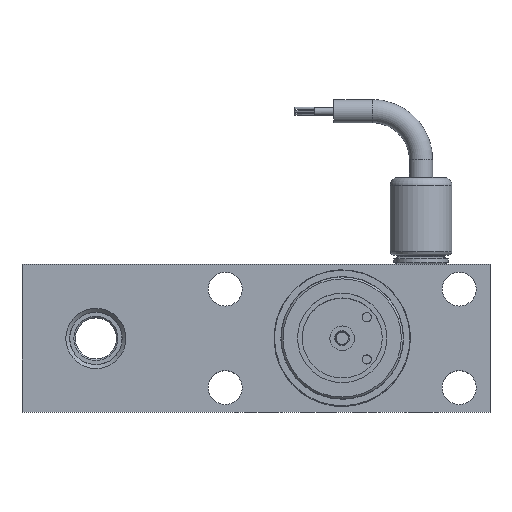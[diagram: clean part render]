
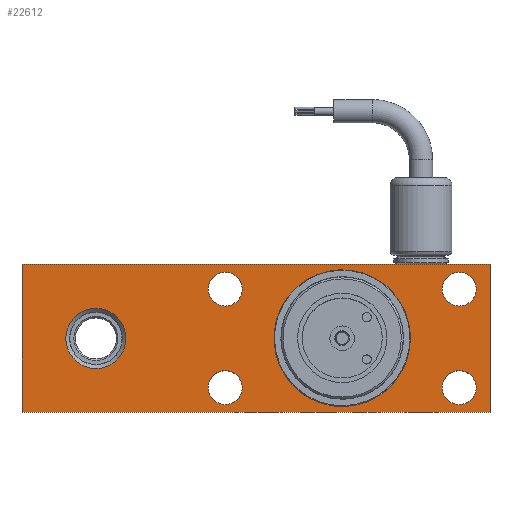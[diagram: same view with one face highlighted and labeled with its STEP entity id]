
A CAD part, top view. The second image highlights one B-rep face of the part: STEP entity #22612.
In plain terms, the highlighted planar face has unit normal (0, 0, 1).
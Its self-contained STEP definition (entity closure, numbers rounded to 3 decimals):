
#1621=FACE_BOUND('',#5839,.T.);
#1622=FACE_BOUND('',#5840,.T.);
#1623=FACE_BOUND('',#5841,.T.);
#1624=FACE_BOUND('',#5842,.T.);
#1625=FACE_BOUND('',#5843,.T.);
#1626=FACE_BOUND('',#5844,.T.);
#3156=CIRCLE('',#23402,17.463);
#3170=CIRCLE('',#23430,4.369);
#3171=CIRCLE('',#23432,4.369);
#3172=CIRCLE('',#23434,4.369);
#3173=CIRCLE('',#23436,4.369);
#3178=CIRCLE('',#23447,7.76);
#4409=FACE_OUTER_BOUND('',#5838,.T.);
#5838=EDGE_LOOP('',(#20713,#20714,#20715,#20716));
#5839=EDGE_LOOP('',(#20717));
#5840=EDGE_LOOP('',(#20718));
#5841=EDGE_LOOP('',(#20719));
#5842=EDGE_LOOP('',(#20720));
#5843=EDGE_LOOP('',(#20721));
#5844=EDGE_LOOP('',(#20722));
#6710=LINE('',#87294,#8550);
#6734=LINE('',#87492,#8574);
#6752=LINE('',#87624,#8592);
#7236=LINE('',#89884,#9076);
#8550=VECTOR('',#26185,10.);
#8574=VECTOR('',#26311,10.);
#8592=VECTOR('',#26367,10.);
#9076=VECTOR('',#27185,10.);
#10708=VERTEX_POINT('',#87262);
#10716=VERTEX_POINT('',#87292);
#10717=VERTEX_POINT('',#87293);
#10761=VERTEX_POINT('',#87414);
#10762=VERTEX_POINT('',#87417);
#10763=VERTEX_POINT('',#87420);
#10764=VERTEX_POINT('',#87423);
#10769=VERTEX_POINT('',#87476);
#10773=VERTEX_POINT('',#87490);
#10774=VERTEX_POINT('',#87491);
#13299=EDGE_CURVE('',#10708,#10708,#3156,.T.);
#13307=EDGE_CURVE('',#10716,#10717,#6710,.T.);
#13353=EDGE_CURVE('',#10761,#10761,#3170,.T.);
#13354=EDGE_CURVE('',#10762,#10762,#3171,.T.);
#13355=EDGE_CURVE('',#10763,#10763,#3172,.T.);
#13356=EDGE_CURVE('',#10764,#10764,#3173,.T.);
#13363=EDGE_CURVE('',#10769,#10769,#3178,.T.);
#13368=EDGE_CURVE('',#10773,#10774,#6734,.T.);
#13405=EDGE_CURVE('',#10774,#10716,#6752,.T.);
#14024=EDGE_CURVE('',#10717,#10773,#7236,.T.);
#20713=ORIENTED_EDGE('',*,*,#13307,.F.);
#20714=ORIENTED_EDGE('',*,*,#13405,.F.);
#20715=ORIENTED_EDGE('',*,*,#13368,.F.);
#20716=ORIENTED_EDGE('',*,*,#14024,.F.);
#20717=ORIENTED_EDGE('',*,*,#13363,.F.);
#20718=ORIENTED_EDGE('',*,*,#13356,.T.);
#20719=ORIENTED_EDGE('',*,*,#13355,.T.);
#20720=ORIENTED_EDGE('',*,*,#13354,.T.);
#20721=ORIENTED_EDGE('',*,*,#13353,.T.);
#20722=ORIENTED_EDGE('',*,*,#13299,.T.);
#21419=PLANE('',#23826);
#22612=ADVANCED_FACE('',(#4409,#1621,#1622,#1623,#1624,#1625,#1626),#21419,
 .F.);
#23402=AXIS2_PLACEMENT_3D('',#87263,#26174,#26175);
#23430=AXIS2_PLACEMENT_3D('',#87415,#26257,#26258);
#23432=AXIS2_PLACEMENT_3D('',#87418,#26261,#26262);
#23434=AXIS2_PLACEMENT_3D('',#87421,#26265,#26266);
#23436=AXIS2_PLACEMENT_3D('',#87424,#26269,#26270);
#23447=AXIS2_PLACEMENT_3D('',#87477,#26291,#26292);
#23826=AXIS2_PLACEMENT_3D('',#92227,#28064,#28065);
#26174=DIRECTION('center_axis',(0.,0.,
-1.));
#26175=DIRECTION('ref_axis',(-1.,-0.018,0.));
#26185=DIRECTION('',(0.,-1.,0.));
#26257=DIRECTION('center_axis',(0.,0.,-1.));
#26258=DIRECTION('ref_axis',(-1.,0.,0.));
#26261=DIRECTION('center_axis',(0.,0.,-1.));
#26262=DIRECTION('ref_axis',(-1.,0.,0.));
#26265=DIRECTION('center_axis',(0.,0.,-1.));
#26266=DIRECTION('ref_axis',(-1.,0.,0.));
#26269=DIRECTION('center_axis',(0.,0.,-1.));
#26270=DIRECTION('ref_axis',(-1.,0.,0.));
#26291=DIRECTION('center_axis',(0.,0.,1.));
#26292=DIRECTION('ref_axis',(-1.,0.,0.));
#26311=DIRECTION('',(0.,1.,0.));
#26367=DIRECTION('',(1.,0.,0.));
#27185=DIRECTION('',(-1.,0.,0.));
#28064=DIRECTION('center_axis',(0.,0.,-1.));
#28065=DIRECTION('ref_axis',(-1.,0.,0.));
#87262=CARTESIAN_POINT('',(17.46,0.308,19.05));
#87263=CARTESIAN_POINT('Origin',(0.,0.,19.05));
#87292=CARTESIAN_POINT('',(38.1,19.05,19.05));
#87293=CARTESIAN_POINT('',(38.1,-19.05,19.05));
#87294=CARTESIAN_POINT('',(38.1,9.525,19.05));
#87414=CARTESIAN_POINT('',(34.531,12.7,19.05));
#87415=CARTESIAN_POINT('Origin',(30.163,12.7,19.05));
#87417=CARTESIAN_POINT('',(34.531,-12.7,19.05));
#87418=CARTESIAN_POINT('Origin',(30.163,-12.7,19.05));
#87420=CARTESIAN_POINT('',(-25.794,-12.7,19.05));
#87421=CARTESIAN_POINT('Origin',(-30.163,-12.7,19.05));
#87423=CARTESIAN_POINT('',(-25.794,12.7,19.05));
#87424=CARTESIAN_POINT('Origin',(-30.163,12.7,19.05));
#87476=CARTESIAN_POINT('',(-55.74,0.,19.05));
#87477=CARTESIAN_POINT('Origin',(-63.5,0.,19.05));
#87490=CARTESIAN_POINT('',(-82.55,-19.05,19.05));
#87491=CARTESIAN_POINT('',(-82.55,19.05,19.05));
#87492=CARTESIAN_POINT('',(-82.55,-19.05,19.05));
#87624=CARTESIAN_POINT('',(-34.1,19.05,19.05));
#89884=CARTESIAN_POINT('',(4.,-19.05,19.05));
#92227=CARTESIAN_POINT('Origin',(-30.099,0.,19.05));
